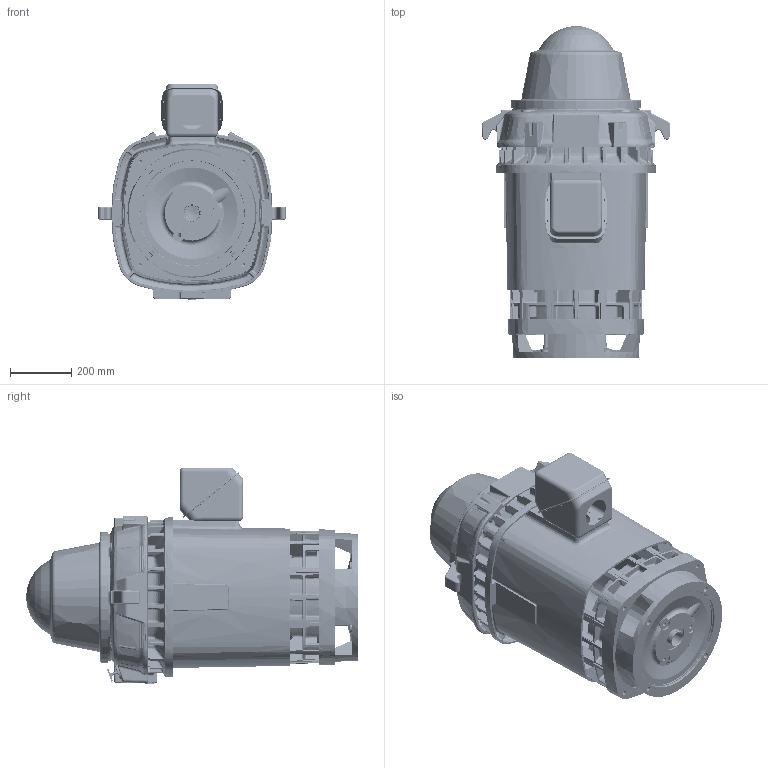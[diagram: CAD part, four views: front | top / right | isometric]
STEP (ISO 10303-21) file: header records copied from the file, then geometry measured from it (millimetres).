
FILE_DESCRIPTION((''),'2;1');
FILE_NAME('400_RU_ASSY_ASM','2016-03-21T',('emd2341'),('Nidec Motor Corporation'),'PRO/ENGINEER BY PARAMETRIC TECHNOLOGY CORPORATION, 2013150','PRO/ENGINEER BY PARAMETRIC TECHNOLOGY CORPORATION, 2013150','');
FILE_SCHEMA(('CONFIG_CONTROL_DESIGN'));
Products named in the file (15): 0188660; 0188662; 0989200; 0989207; 0989200-0000_A_ASM; 0988193; 0989210; 0378702; 0378703; 0028711; SHAFT; 0132591; 0396021; 0582109; 400_RU_ASSY_ASM
Assembly tree (14 placements, depth 3):
  400_RU_ASSY_ASM
    0188660
    0188662
    0989200-0000_A_ASM
      0989200
      0989207
    0988193
    0989210
    0378702
    0378703
    0028711
    SHAFT
    0132591
    0396021
    0582109
Bounding box: 612.39 x 1081.76 x 706.85 mm (x, y, z)
Volume: 30147847.4 mm3; surface area: 6180097 mm2
Topology: 14 solids, 14 shells, 6337 faces, 15575 edges, 9238 vertices
Faces by surface type: bspline 2725, plane 1227, cylinder 1164, torus 501, cone 384, sphere 289, extrusion 47
Entity records: 281011 total; most frequent: CARTESIAN_POINT 152145, ORIENTED_EDGE 31026, DIRECTION 21289, EDGE_CURVE 15513, VERTEX_POINT 9238, AXIS2_PLACEMENT_3D 8828, B_SPLINE_CURVE_WITH_KNOTS 6742, EDGE_LOOP 6545
